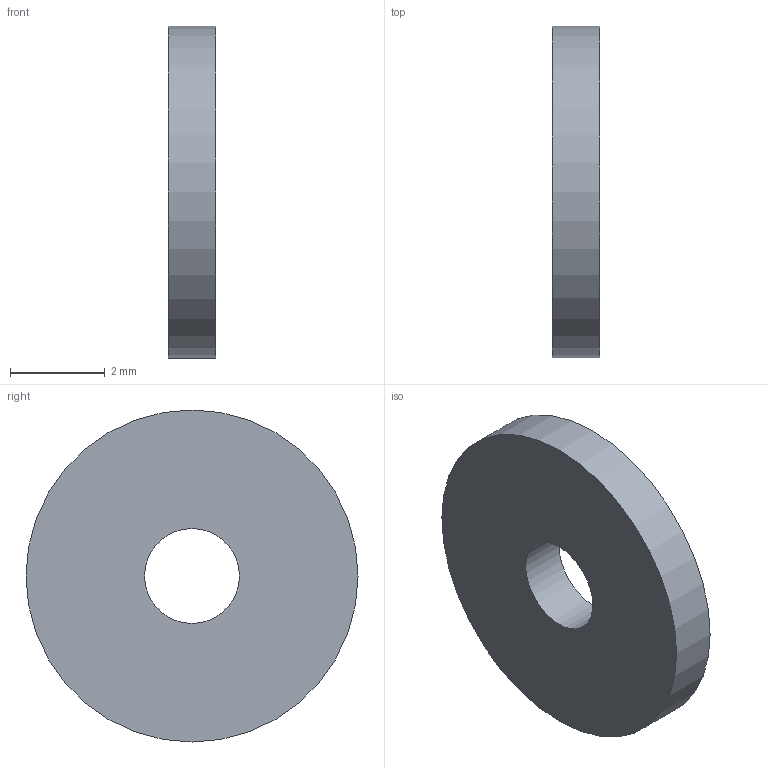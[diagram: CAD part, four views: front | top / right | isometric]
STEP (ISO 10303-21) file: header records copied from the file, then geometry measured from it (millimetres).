
FILE_DESCRIPTION(('Open CASCADE Model'),'2;1');
FILE_NAME('Open CASCADE Shape Model','2026-11-24T19:57:38',('Author'),( 'Open CASCADE'),'Open CASCADE STEP processor 7.8','Open CASCADE 7.8' ,'Unknown');
FILE_SCHEMA(('AUTOMOTIVE_DESIGN { 1 0 10303 214 1 1 1 1 }'));
Length unit declared in the file: millimetre
Products named in the file (1): Open CASCADE STEP translator 7.8 8
Bounding box: 1 x 7 x 7 mm (x, y, z)
Volume: 35.3 mm3; surface area: 99 mm2
Topology: 1 solids, 1 shells, 4 faces, 6 edges, 4 vertices
Faces by surface type: cylinder 2, plane 2
Full cylindrical faces by diameter (mm): 2 x1, 7 x1
Entity records: 184 total; most frequent: DIRECTION 30, CARTESIAN_POINT 29, ORIENTED_EDGE 12, PCURVE 12, DEFINITIONAL_REPRESENTATION 12, AXIS2_PLACEMENT_3D 9, CIRCLE 8, LINE 8
